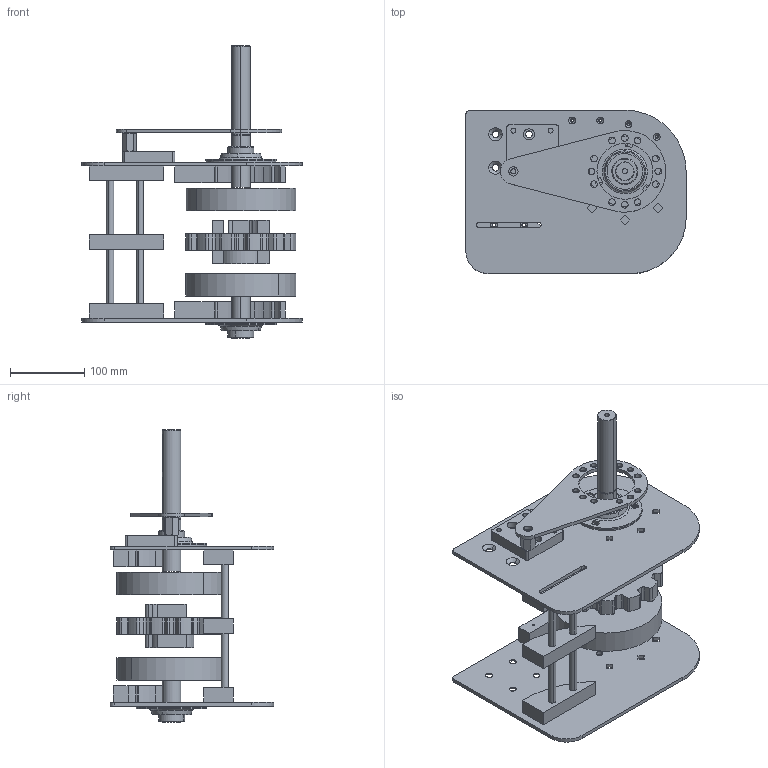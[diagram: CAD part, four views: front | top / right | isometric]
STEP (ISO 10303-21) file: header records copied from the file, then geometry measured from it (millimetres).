
FILE_DESCRIPTION (( 'STEP AP203' ), '1' );
FILE_NAME ('2000.750.163.STEP', '2016-01-13T13:35:40', ( 'SICO-SERVICE' ), ( 'Hewlett-Packard Company' ), 'SwSTEP 2.0', 'SolidWorks 2016', '' );
FILE_SCHEMA (( 'CONFIG_CONTROL_DESIGN' ));
Length unit declared in the file: millimetre
Products named in the file (1): 2000.750.163
Bounding box: 296.5 x 220 x 394 mm (x, y, z)
Surface area: 550798.9 mm2 (no closed solid volume)
Topology: 0 solids, 28 shells, 558 faces, 1574 edges, 1050 vertices
Faces by surface type: cylinder 285, plane 207, cone 46, torus 12, sphere 8
Entity records: 18614 total; most frequent: CARTESIAN_POINT 3407, DIRECTION 3378, ORIENTED_EDGE 2890, EDGE_CURVE 1566, AXIS2_PLACEMENT_3D 1273, VERTEX_POINT 1046, VECTOR 832, LINE 832
